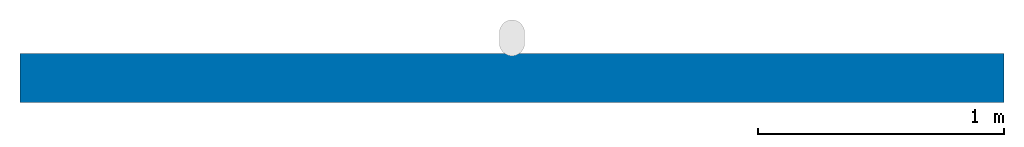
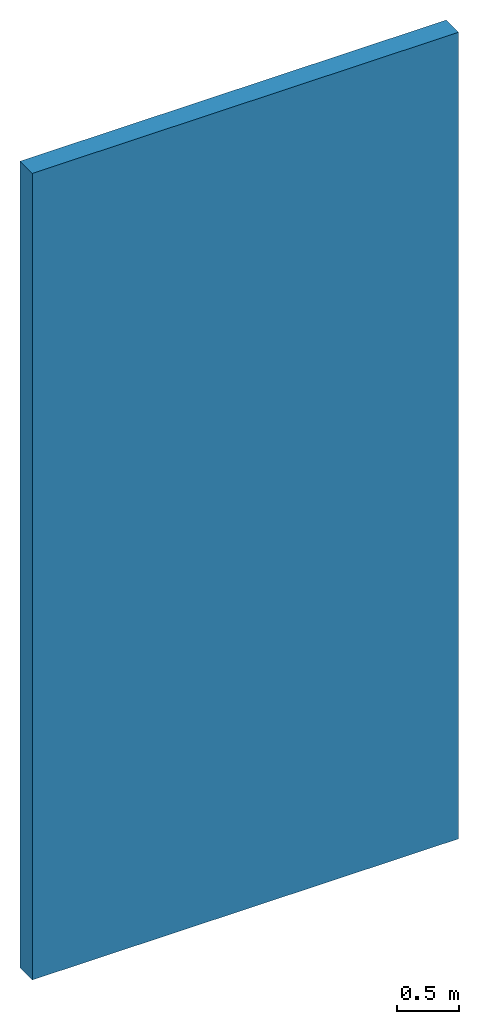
# One storey, part 1 of 2: 1 wall.
"""IFC2X3 building model written with IfcOpenShell, lengths in millimetres."""

from ifc_helpers import new_model, entity, si_unit, converted_unit, derived_unit, direction, frame, frame_2d, origin, place, context, subcontext, project, spatial, rectangle, extrude, material, layer, layer_set, layer_usage, type_object, element, save


model = new_model("IFC2X3")

# Units and contexts
model_context = context("Model", 3, precision=0.01, world=origin(), true_north=direction((6.12303176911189e-17, 1.0)))
context_of_model = context(None, 3, precision=0.01, world=origin(), true_north=direction((6.12303176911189e-17, 1.0)))
body_context = subcontext(model_context, "Body", "Model", "MODEL_VIEW")
ifc_project = project(units=[si_unit("LENGTHUNIT", "METRE", prefix="MILLI"), si_unit("AREAUNIT", "SQUARE_METRE"), si_unit("VOLUMEUNIT", "CUBIC_METRE"), converted_unit("PLANEANGLEUNIT", "DEGREE", entity("IfcRatioMeasure", 0.0174532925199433), si_unit("PLANEANGLEUNIT", "RADIAN"), dimensions=[0, 0, 0, 0, 0, 0, 0]), si_unit("MASSUNIT", "GRAM", prefix="KILO"), si_unit("TIMEUNIT", "SECOND"), si_unit("FREQUENCYUNIT", "HERTZ"), si_unit("THERMODYNAMICTEMPERATUREUNIT", "DEGREE_CELSIUS"), derived_unit("THERMALTRANSMITTANCEUNIT", [(si_unit("MASSUNIT", "GRAM", prefix="KILO"), 1), (si_unit("THERMODYNAMICTEMPERATUREUNIT", "KELVIN"), -1), (si_unit("TIMEUNIT", "SECOND"), -3)]), derived_unit("VOLUMETRICFLOWRATEUNIT", [(si_unit("LENGTHUNIT", "METRE"), 3), (si_unit("TIMEUNIT", "SECOND"), -1)]), si_unit("ELECTRICCURRENTUNIT", "AMPERE"), si_unit("ELECTRICVOLTAGEUNIT", "VOLT"), si_unit("POWERUNIT", "WATT"), si_unit("FORCEUNIT", "NEWTON", prefix="KILO"), si_unit("ILLUMINANCEUNIT", "LUX"), si_unit("LUMINOUSFLUXUNIT", "LUMEN"), si_unit("LUMINOUSINTENSITYUNIT", "CANDELA"), si_unit("PRESSUREUNIT", "PASCAL")], contexts=[model_context, context_of_model])

# Site, building, storey
site_placement = place(None, origin())
site = spatial("IfcSite", under=ifc_project, at=site_placement, Name="Default", CompositionType="ELEMENT")
building_placement = place(site_placement, origin())
building = spatial("IfcBuilding", under=site, at=building_placement, CompositionType="ELEMENT")
storey_placement = place(building_placement, origin())
storey = spatial("IfcBuildingStorey", under=building, at=storey_placement, Name="Level 1", CompositionType="ELEMENT", Elevation=0.0)

# Wall
ifc_material = material(Name="Default Wall")
ifc_layer = layer(ifc_material, 200.0)
ifc_layer_set = layer_set([ifc_layer], Name="Basic Wall:Generic - 200mm")
ifc_layer_usage = layer_usage(ifc_layer_set, "AXIS2", "NEGATIVE", 100.0)
wall_type = type_object("IfcWallType", Name="Basic Wall:Generic - 200mm", PredefinedType="STANDARD", material=ifc_layer_set)
wall_placement = place(storey_placement, frame((-1342.18636251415, -567.2524265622, 0.0)))
element("IfcWallStandardCase", 1, at=wall_placement, inside=storey, type_object=wall_type, material=ifc_layer_usage, Name="Basic Wall:Generic - 200mm", ObjectType="Basic Wall:Generic - 200mm:249", context=body_context, shape_type="SweptSolid", body=[
    extrude(rectangle(XDim=4000.0, YDim=200.0, at=frame_2d((2000.0, -7.105427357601e-15), x_axis=(-1.0, 0.0))), origin(), (0.0, 0.0, 1.0), 8000.0),
])

save(model, "model.ifc")
